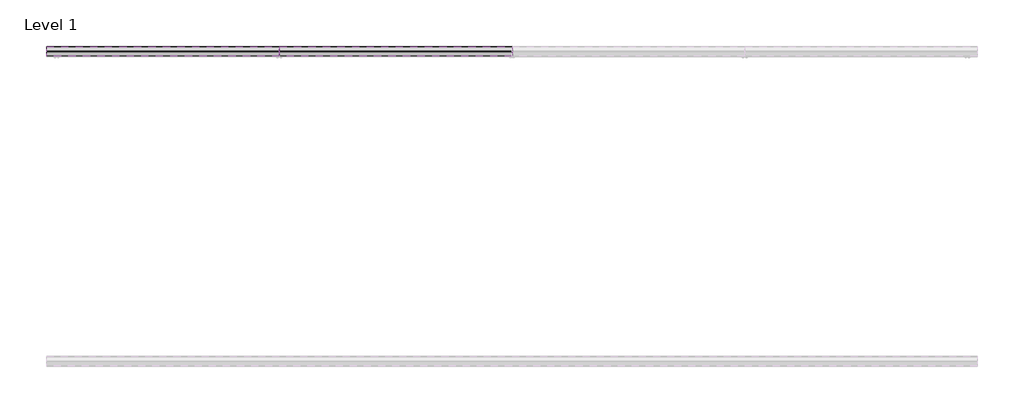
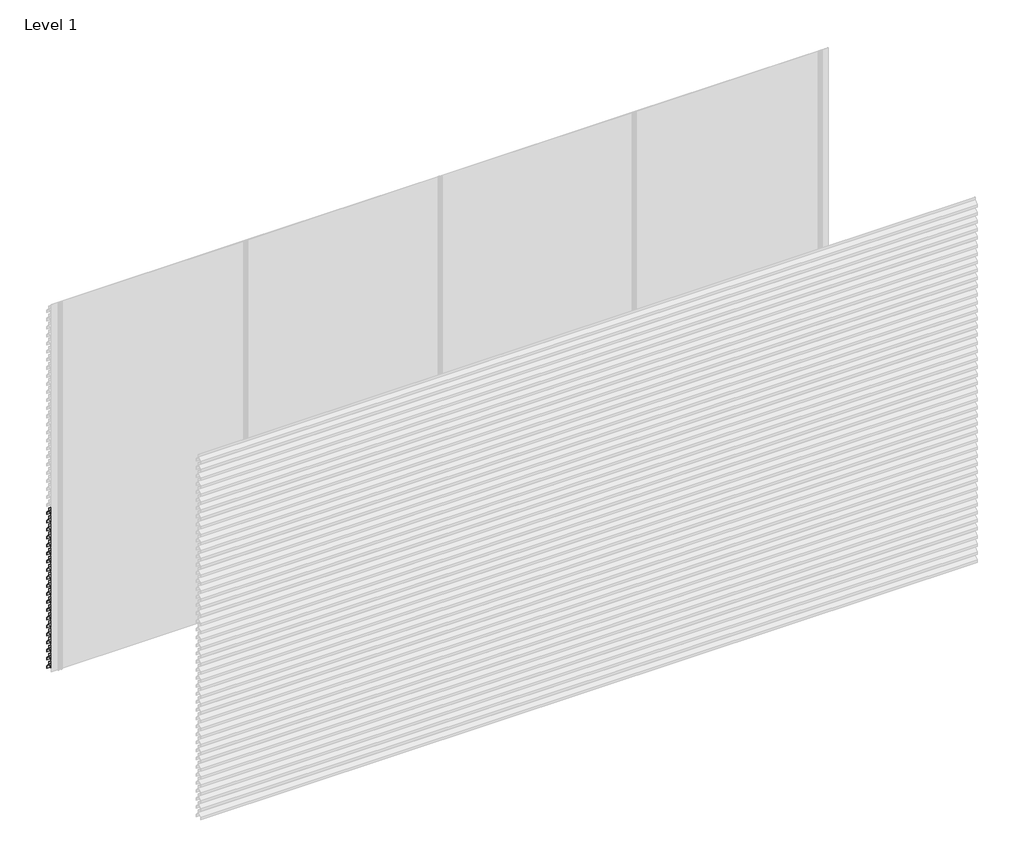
# One storey, part 33 of 35: 76 proxies.
"""IFC4 building model written with IfcOpenShell, lengths in millimetres."""

from ifc_helpers import new_model, si_unit, frame, origin, place, context, project, spatial, polyline, outline, extrude, element, save

model = new_model("IFC4")

# Units and contexts
model_context = context("Model", 3, world=origin())
ifc_project = project(units=[si_unit("LENGTHUNIT", "METRE", prefix="MILLI")], contexts=[model_context])

# Site, building, storey
site = spatial("IfcSite", under=ifc_project)
building = spatial("IfcBuilding", under=site)
storey = spatial("IfcBuildingStorey", under=building, Name="Level 1", Elevation=0.0)

# Proxies
placement = place(None, origin())
element("IfcBuildingElementProxy", 1, Name="Wall Sweeps", at=placement, inside=storey, context=model_context, shape_type="SweptSolid", body=[
    extrude(outline(polyline([(64.0, 1266.0), (64.0, 1246.0), (62.75, 1246.0), (62.75, 1265.4342979), (31.8861061, 1298.531772), (3.3, 1278.4392868), (3.3, 1259.6629874), (2.0, 1258.8506572), (2.0, 1279.1145472), (31.462475, 1299.823011), (31.462475, 1320.0), (32.8227376, 1320.0), (32.8227376, 1299.4335207), (64.0, 1266.0)])), frame((0.0, 0.0, 0.0), z_axis=(1.0, 0.0, 0.0), x_axis=(0.0, 1.0, 0.0)), (0.0, 0.0, 1.0), 1500.0),
])
element("IfcBuildingElementProxy", 2, Name="Wall Sweeps", at=placement, inside=storey, context=model_context, shape_type="SweptSolid", body=[
    extrude(outline(polyline([(64.0, 1200.0), (64.0, 1180.0), (62.75, 1180.0), (62.75, 1199.4342979), (31.8861061, 1232.531772), (3.3, 1212.4392868), (3.3, 1193.6629874), (2.0, 1192.8506572), (2.0, 1213.1145472), (31.462475, 1233.823011), (31.462475, 1254.0), (32.8227376, 1254.0), (32.8227376, 1233.4335207), (64.0, 1200.0)])), frame((0.0, 0.0, 0.0), z_axis=(1.0, 0.0, 0.0), x_axis=(0.0, 1.0, 0.0)), (0.0, 0.0, 1.0), 1500.0),
])
element("IfcBuildingElementProxy", 3, Name="Wall Sweeps", at=placement, inside=storey, context=model_context, shape_type="SweptSolid", body=[
    extrude(outline(polyline([(64.0, 1134.0), (64.0, 1114.0), (62.75, 1114.0), (62.75, 1133.4342979), (31.8861061, 1166.531772), (3.3, 1146.4392868), (3.3, 1127.6629874), (2.0, 1126.8506572), (2.0, 1147.1145472), (31.462475, 1167.823011), (31.462475, 1188.0), (32.8227376, 1188.0), (32.8227376, 1167.4335207), (64.0, 1134.0)])), frame((0.0, 0.0, 0.0), z_axis=(1.0, 0.0, 0.0), x_axis=(0.0, 1.0, 0.0)), (0.0, 0.0, 1.0), 1500.0),
])
element("IfcBuildingElementProxy", 4, Name="Wall Sweeps", at=placement, inside=storey, context=model_context, shape_type="SweptSolid", body=[
    extrude(outline(polyline([(64.0, 1068.0), (64.0, 1048.0), (62.75, 1048.0), (62.75, 1067.4342979), (31.8861061, 1100.531772), (3.3, 1080.4392868), (3.3, 1061.6629874), (2.0, 1060.8506572), (2.0, 1081.1145472), (31.462475, 1101.823011), (31.462475, 1122.0), (32.8227376, 1122.0), (32.8227376, 1101.4335207), (64.0, 1068.0)])), frame((0.0, 0.0, 0.0), z_axis=(1.0, 0.0, 0.0), x_axis=(0.0, 1.0, 0.0)), (0.0, 0.0, 1.0), 1500.0),
])
element("IfcBuildingElementProxy", 5, Name="Wall Sweeps", at=placement, inside=storey, context=model_context, shape_type="SweptSolid", body=[
    extrude(outline(polyline([(64.0, 1002.0), (64.0, 982.0), (62.75, 982.0), (62.75, 1001.4342979), (31.8861061, 1034.531772), (3.3, 1014.4392868), (3.3, 995.6629874), (2.0, 994.8506572), (2.0, 1015.1145472), (31.462475, 1035.823011), (31.462475, 1056.0), (32.8227376, 1056.0), (32.8227376, 1035.4335207), (64.0, 1002.0)])), frame((0.0, 0.0, 0.0), z_axis=(1.0, 0.0, 0.0), x_axis=(0.0, 1.0, 0.0)), (0.0, 0.0, 1.0), 1500.0),
])
element("IfcBuildingElementProxy", 6, Name="Wall Sweeps", at=placement, inside=storey, context=model_context, shape_type="SweptSolid", body=[
    extrude(outline(polyline([(64.0, 936.0), (64.0, 916.0), (62.75, 916.0), (62.75, 935.4342979), (31.8861061, 968.531772), (3.3, 948.4392868), (3.3, 929.6629874), (2.0, 928.8506572), (2.0, 949.1145472), (31.462475, 969.823011), (31.462475, 990.0), (32.8227376, 990.0), (32.8227376, 969.4335207), (64.0, 936.0)])), frame((0.0, 0.0, 0.0), z_axis=(1.0, 0.0, 0.0), x_axis=(0.0, 1.0, 0.0)), (0.0, 0.0, 1.0), 1500.0),
])
element("IfcBuildingElementProxy", 7, Name="Wall Sweeps", at=placement, inside=storey, context=model_context, shape_type="SweptSolid", body=[
    extrude(outline(polyline([(64.0, 870.0), (64.0, 850.0), (62.75, 850.0), (62.75, 869.4342979), (31.8861061, 902.531772), (3.3, 882.4392868), (3.3, 863.6629874), (2.0, 862.8506572), (2.0, 883.1145472), (31.462475, 903.823011), (31.462475, 924.0), (32.8227376, 924.0), (32.8227376, 903.4335207), (64.0, 870.0)])), frame((0.0, 0.0, 0.0), z_axis=(1.0, 0.0, 0.0), x_axis=(0.0, 1.0, 0.0)), (0.0, 0.0, 1.0), 1500.0),
])
element("IfcBuildingElementProxy", 8, Name="Wall Sweeps", at=placement, inside=storey, context=model_context, shape_type="SweptSolid", body=[
    extrude(outline(polyline([(64.0, 804.0), (64.0, 784.0), (62.75, 784.0), (62.75, 803.4342979), (31.8861061, 836.531772), (3.3, 816.4392868), (3.3, 797.6629874), (2.0, 796.8506572), (2.0, 817.1145472), (31.462475, 837.823011), (31.462475, 858.0), (32.8227376, 858.0), (32.8227376, 837.4335207), (64.0, 804.0)])), frame((0.0, 0.0, 0.0), z_axis=(1.0, 0.0, 0.0), x_axis=(0.0, 1.0, 0.0)), (0.0, 0.0, 1.0), 1500.0),
])
element("IfcBuildingElementProxy", 9, Name="Wall Sweeps", at=placement, inside=storey, context=model_context, shape_type="SweptSolid", body=[
    extrude(outline(polyline([(64.0, 738.0), (64.0, 718.0), (62.75, 718.0), (62.75, 737.4342979), (31.8861061, 770.531772), (3.3, 750.4392868), (3.3, 731.6629874), (2.0, 730.8506572), (2.0, 751.1145472), (31.462475, 771.823011), (31.462475, 792.0), (32.8227376, 792.0), (32.8227376, 771.4335207), (64.0, 738.0)])), frame((0.0, 0.0, 0.0), z_axis=(1.0, 0.0, 0.0), x_axis=(0.0, 1.0, 0.0)), (0.0, 0.0, 1.0), 1500.0),
])
element("IfcBuildingElementProxy", 10, Name="Wall Sweeps", at=placement, inside=storey, context=model_context, shape_type="SweptSolid", body=[
    extrude(outline(polyline([(64.0, 672.0), (64.0, 652.0), (62.75, 652.0), (62.75, 671.4342979), (31.8861061, 704.531772), (3.3, 684.4392868), (3.3, 665.6629874), (2.0, 664.8506572), (2.0, 685.1145472), (31.462475, 705.823011), (31.462475, 726.0), (32.8227376, 726.0), (32.8227376, 705.4335207), (64.0, 672.0)])), frame((0.0, 0.0, 0.0), z_axis=(1.0, 0.0, 0.0), x_axis=(0.0, 1.0, 0.0)), (0.0, 0.0, 1.0), 1500.0),
])
element("IfcBuildingElementProxy", 11, Name="Wall Sweeps", at=placement, inside=storey, context=model_context, shape_type="SweptSolid", body=[
    extrude(outline(polyline([(64.0, 606.0), (64.0, 586.0), (62.75, 586.0), (62.75, 605.4342979), (31.8861061, 638.531772), (3.3, 618.4392868), (3.3, 599.6629874), (2.0, 598.8506572), (2.0, 619.1145472), (31.462475, 639.823011), (31.462475, 660.0), (32.8227376, 660.0), (32.8227376, 639.4335207), (64.0, 606.0)])), frame((0.0, 0.0, 0.0), z_axis=(1.0, 0.0, 0.0), x_axis=(0.0, 1.0, 0.0)), (0.0, 0.0, 1.0), 1500.0),
])
element("IfcBuildingElementProxy", 12, Name="Wall Sweeps", at=placement, inside=storey, context=model_context, shape_type="SweptSolid", body=[
    extrude(outline(polyline([(64.0, 540.0), (64.0, 520.0), (62.75, 520.0), (62.75, 539.4342979), (31.8861061, 572.531772), (3.3, 552.4392868), (3.3, 533.6629874), (2.0, 532.8506572), (2.0, 553.1145472), (31.462475, 573.823011), (31.462475, 594.0), (32.8227376, 594.0), (32.8227376, 573.4335207), (64.0, 540.0)])), frame((0.0, 0.0, 0.0), z_axis=(1.0, 0.0, 0.0), x_axis=(0.0, 1.0, 0.0)), (0.0, 0.0, 1.0), 1500.0),
])
element("IfcBuildingElementProxy", 13, Name="Wall Sweeps", at=placement, inside=storey, context=model_context, shape_type="SweptSolid", body=[
    extrude(outline(polyline([(64.0, 474.0), (64.0, 454.0), (62.75, 454.0), (62.75, 473.4342979), (31.8861061, 506.531772), (3.3, 486.4392868), (3.3, 467.6629874), (2.0, 466.8506572), (2.0, 487.1145472), (31.462475, 507.823011), (31.462475, 528.0), (32.8227376, 528.0), (32.8227376, 507.4335207), (64.0, 474.0)])), frame((0.0, 0.0, 0.0), z_axis=(1.0, 0.0, 0.0), x_axis=(0.0, 1.0, 0.0)), (0.0, 0.0, 1.0), 1500.0),
])
element("IfcBuildingElementProxy", 14, Name="Wall Sweeps", at=placement, inside=storey, context=model_context, shape_type="SweptSolid", body=[
    extrude(outline(polyline([(64.0, 408.0), (64.0, 388.0), (62.75, 388.0), (62.75, 407.4342979), (31.8861061, 440.531772), (3.3, 420.4392868), (3.3, 401.6629874), (2.0, 400.8506572), (2.0, 421.1145472), (31.462475, 441.823011), (31.462475, 462.0), (32.8227376, 462.0), (32.8227376, 441.4335207), (64.0, 408.0)])), frame((0.0, 0.0, 0.0), z_axis=(1.0, 0.0, 0.0), x_axis=(0.0, 1.0, 0.0)), (0.0, 0.0, 1.0), 1500.0),
])
element("IfcBuildingElementProxy", 15, Name="Wall Sweeps", at=placement, inside=storey, context=model_context, shape_type="SweptSolid", body=[
    extrude(outline(polyline([(64.0, 342.0), (64.0, 322.0), (62.75, 322.0), (62.75, 341.4342979), (31.8861061, 374.531772), (3.3, 354.4392868), (3.3, 335.6629874), (2.0, 334.8506572), (2.0, 355.1145472), (31.462475, 375.823011), (31.462475, 396.0), (32.8227376, 396.0), (32.8227376, 375.4335207), (64.0, 342.0)])), frame((0.0, 0.0, 0.0), z_axis=(1.0, 0.0, 0.0), x_axis=(0.0, 1.0, 0.0)), (0.0, 0.0, 1.0), 1500.0),
])
element("IfcBuildingElementProxy", 16, Name="Wall Sweeps", at=placement, inside=storey, context=model_context, shape_type="SweptSolid", body=[
    extrude(outline(polyline([(64.0, 276.0), (64.0, 256.0), (62.75, 256.0), (62.75, 275.4342979), (31.8861061, 308.531772), (3.3, 288.4392868), (3.3, 269.6629874), (2.0, 268.8506572), (2.0, 289.1145472), (31.462475, 309.823011), (31.462475, 330.0), (32.8227376, 330.0), (32.8227376, 309.4335207), (64.0, 276.0)])), frame((0.0, 0.0, 0.0), z_axis=(1.0, 0.0, 0.0), x_axis=(0.0, 1.0, 0.0)), (0.0, 0.0, 1.0), 1500.0),
])
element("IfcBuildingElementProxy", 17, Name="Wall Sweeps", at=placement, inside=storey, context=model_context, shape_type="SweptSolid", body=[
    extrude(outline(polyline([(64.0, 210.0), (64.0, 190.0), (62.75, 190.0), (62.75, 209.4342979), (31.8861061, 242.531772), (3.3, 222.4392868), (3.3, 203.6629874), (2.0, 202.8506572), (2.0, 223.1145472), (31.462475, 243.823011), (31.462475, 264.0), (32.8227376, 264.0), (32.8227376, 243.4335207), (64.0, 210.0)])), frame((0.0, 0.0, 0.0), z_axis=(1.0, 0.0, 0.0), x_axis=(0.0, 1.0, 0.0)), (0.0, 0.0, 1.0), 1500.0),
])
element("IfcBuildingElementProxy", 18, Name="Wall Sweeps", at=placement, inside=storey, context=model_context, shape_type="SweptSolid", body=[
    extrude(outline(polyline([(64.0, 144.0), (64.0, 124.0), (62.75, 124.0), (62.75, 143.4342979), (31.8861061, 176.531772), (3.3, 156.4392868), (3.3, 137.6629874), (2.0, 136.8506572), (2.0, 157.1145472), (31.462475, 177.823011), (31.462475, 198.0), (32.8227376, 198.0), (32.8227376, 177.4335207), (64.0, 144.0)])), frame((0.0, 0.0, 0.0), z_axis=(1.0, 0.0, 0.0), x_axis=(0.0, 1.0, 0.0)), (0.0, 0.0, 1.0), 1500.0),
])
element("IfcBuildingElementProxy", 19, Name="Wall Sweeps", at=placement, inside=storey, context=model_context, shape_type="SweptSolid", body=[
    extrude(outline(polyline([(64.0, 78.0), (64.0, 58.0), (62.75, 58.0), (62.75, 77.4342979), (31.8861061, 110.531772), (3.3, 90.4392868), (3.3, 71.6629874), (2.0, 70.8506572), (2.0, 91.1145472), (31.462475, 111.823011), (31.462475, 132.0), (32.8227376, 132.0), (32.8227376, 111.4335207), (64.0, 78.0)])), frame((0.0, 0.0, 0.0), z_axis=(1.0, 0.0, 0.0), x_axis=(0.0, 1.0, 0.0)), (0.0, 0.0, 1.0), 1500.0),
])
element("IfcBuildingElementProxy", 20, Name="Wall Sweeps", at=placement, inside=storey, context=model_context, shape_type="SweptSolid", body=[
    extrude(outline(polyline([(64.0, 12.0), (64.0, -8.0), (62.75, -8.0), (62.75, 11.4342979), (31.8861061, 44.531772), (3.3, 24.4392868), (3.3, 5.6629874), (2.0, 4.8506572), (2.0, 25.1145472), (31.462475, 45.823011), (31.462475, 66.0), (32.8227376, 66.0), (32.8227376, 45.4335207), (64.0, 12.0)])), frame((0.0, 0.0, 0.0), z_axis=(1.0, 0.0, 0.0), x_axis=(0.0, 1.0, 0.0)), (0.0, 0.0, 1.0), 1500.0),
])
element("IfcBuildingElementProxy", 21, Name="Wall Sweeps", at=placement, inside=storey, context=model_context, shape_type="SweptSolid", body=[
    extrude(outline(polyline([(64.0, 2916.0), (64.0, 2896.0), (62.75, 2896.0), (62.75, 2915.4342979), (31.8861061, 2948.531772), (3.3, 2928.4392868), (3.3, 2909.6629874), (2.0, 2908.8506572), (2.0, 2929.1145472), (31.462475, 2949.823011), (31.462475, 2970.0), (32.8227376, 2970.0), (32.8227376, 2949.4335207), (64.0, 2916.0)])), frame((1500.0, 0.0, 0.0), z_axis=(1.0, 0.0, 0.0), x_axis=(0.0, 1.0, 0.0)), (0.0, 0.0, 1.0), 1500.0),
])
element("IfcBuildingElementProxy", 22, Name="Wall Sweeps", at=placement, inside=storey, context=model_context, shape_type="SweptSolid", body=[
    extrude(outline(polyline([(64.0, 2850.0), (64.0, 2830.0), (62.75, 2830.0), (62.75, 2849.4342979), (31.8861061, 2882.531772), (3.3, 2862.4392868), (3.3, 2843.6629874), (2.0, 2842.8506572), (2.0, 2863.1145472), (31.462475, 2883.823011), (31.462475, 2904.0), (32.8227376, 2904.0), (32.8227376, 2883.4335207), (64.0, 2850.0)])), frame((1500.0, 0.0, 0.0), z_axis=(1.0, 0.0, 0.0), x_axis=(0.0, 1.0, 0.0)), (0.0, 0.0, 1.0), 1500.0),
])
element("IfcBuildingElementProxy", 23, Name="Wall Sweeps", at=placement, inside=storey, context=model_context, shape_type="SweptSolid", body=[
    extrude(outline(polyline([(64.0, 2784.0), (64.0, 2764.0), (62.75, 2764.0), (62.75, 2783.4342979), (31.8861061, 2816.531772), (3.3, 2796.4392868), (3.3, 2777.6629874), (2.0, 2776.8506572), (2.0, 2797.1145472), (31.462475, 2817.823011), (31.462475, 2838.0), (32.8227376, 2838.0), (32.8227376, 2817.4335207), (64.0, 2784.0)])), frame((1500.0, 0.0, 0.0), z_axis=(1.0, 0.0, 0.0), x_axis=(0.0, 1.0, 0.0)), (0.0, 0.0, 1.0), 1500.0),
])
element("IfcBuildingElementProxy", 24, Name="Wall Sweeps", at=placement, inside=storey, context=model_context, shape_type="SweptSolid", body=[
    extrude(outline(polyline([(64.0, 2718.0), (64.0, 2698.0), (62.75, 2698.0), (62.75, 2717.4342979), (31.8861061, 2750.531772), (3.3, 2730.4392868), (3.3, 2711.6629874), (2.0, 2710.8506572), (2.0, 2731.1145472), (31.462475, 2751.823011), (31.462475, 2772.0), (32.8227376, 2772.0), (32.8227376, 2751.4335207), (64.0, 2718.0)])), frame((1500.0, 0.0, 0.0), z_axis=(1.0, 0.0, 0.0), x_axis=(0.0, 1.0, 0.0)), (0.0, 0.0, 1.0), 1500.0),
])
element("IfcBuildingElementProxy", 25, Name="Wall Sweeps", at=placement, inside=storey, context=model_context, shape_type="SweptSolid", body=[
    extrude(outline(polyline([(64.0, 2652.0), (64.0, 2632.0), (62.75, 2632.0), (62.75, 2651.4342979), (31.8861061, 2684.531772), (3.3, 2664.4392868), (3.3, 2645.6629874), (2.0, 2644.8506572), (2.0, 2665.1145472), (31.462475, 2685.823011), (31.462475, 2706.0), (32.8227376, 2706.0), (32.8227376, 2685.4335207), (64.0, 2652.0)])), frame((1500.0, 0.0, 0.0), z_axis=(1.0, 0.0, 0.0), x_axis=(0.0, 1.0, 0.0)), (0.0, 0.0, 1.0), 1500.0),
])
element("IfcBuildingElementProxy", 26, Name="Wall Sweeps", at=placement, inside=storey, context=model_context, shape_type="SweptSolid", body=[
    extrude(outline(polyline([(64.0, 2586.0), (64.0, 2566.0), (62.75, 2566.0), (62.75, 2585.4342979), (31.8861061, 2618.531772), (3.3, 2598.4392868), (3.3, 2579.6629874), (2.0, 2578.8506572), (2.0, 2599.1145472), (31.462475, 2619.823011), (31.462475, 2640.0), (32.8227376, 2640.0), (32.8227376, 2619.4335207), (64.0, 2586.0)])), frame((1500.0, 0.0, 0.0), z_axis=(1.0, 0.0, 0.0), x_axis=(0.0, 1.0, 0.0)), (0.0, 0.0, 1.0), 1500.0),
])
element("IfcBuildingElementProxy", 27, Name="Wall Sweeps", at=placement, inside=storey, context=model_context, shape_type="SweptSolid", body=[
    extrude(outline(polyline([(64.0, 2520.0), (64.0, 2500.0), (62.75, 2500.0), (62.75, 2519.4342979), (31.8861061, 2552.531772), (3.3, 2532.4392868), (3.3, 2513.6629874), (2.0, 2512.8506572), (2.0, 2533.1145472), (31.462475, 2553.823011), (31.462475, 2574.0), (32.8227376, 2574.0), (32.8227376, 2553.4335207), (64.0, 2520.0)])), frame((1500.0, 0.0, 0.0), z_axis=(1.0, 0.0, 0.0), x_axis=(0.0, 1.0, 0.0)), (0.0, 0.0, 1.0), 1500.0),
])
element("IfcBuildingElementProxy", 28, Name="Wall Sweeps", at=placement, inside=storey, context=model_context, shape_type="SweptSolid", body=[
    extrude(outline(polyline([(64.0, 2454.0), (64.0, 2434.0), (62.75, 2434.0), (62.75, 2453.4342979), (31.8861061, 2486.531772), (3.3, 2466.4392868), (3.3, 2447.6629874), (2.0, 2446.8506572), (2.0, 2467.1145472), (31.462475, 2487.823011), (31.462475, 2508.0), (32.8227376, 2508.0), (32.8227376, 2487.4335207), (64.0, 2454.0)])), frame((1500.0, 0.0, 0.0), z_axis=(1.0, 0.0, 0.0), x_axis=(0.0, 1.0, 0.0)), (0.0, 0.0, 1.0), 1500.0),
])
element("IfcBuildingElementProxy", 29, Name="Wall Sweeps", at=placement, inside=storey, context=model_context, shape_type="SweptSolid", body=[
    extrude(outline(polyline([(64.0, 2388.0), (64.0, 2368.0), (62.75, 2368.0), (62.75, 2387.4342979), (31.8861061, 2420.531772), (3.3, 2400.4392868), (3.3, 2381.6629874), (2.0, 2380.8506572), (2.0, 2401.1145472), (31.462475, 2421.823011), (31.462475, 2442.0), (32.8227376, 2442.0), (32.8227376, 2421.4335207), (64.0, 2388.0)])), frame((1500.0, 0.0, 0.0), z_axis=(1.0, 0.0, 0.0), x_axis=(0.0, 1.0, 0.0)), (0.0, 0.0, 1.0), 1500.0),
])
element("IfcBuildingElementProxy", 30, Name="Wall Sweeps", at=placement, inside=storey, context=model_context, shape_type="SweptSolid", body=[
    extrude(outline(polyline([(64.0, 2322.0), (64.0, 2302.0), (62.75, 2302.0), (62.75, 2321.4342979), (31.8861061, 2354.531772), (3.3, 2334.4392868), (3.3, 2315.6629874), (2.0, 2314.8506572), (2.0, 2335.1145472), (31.462475, 2355.823011), (31.462475, 2376.0), (32.8227376, 2376.0), (32.8227376, 2355.4335207), (64.0, 2322.0)])), frame((1500.0, 0.0, 0.0), z_axis=(1.0, 0.0, 0.0), x_axis=(0.0, 1.0, 0.0)), (0.0, 0.0, 1.0), 1500.0),
])
element("IfcBuildingElementProxy", 31, Name="Wall Sweeps", at=placement, inside=storey, context=model_context, shape_type="SweptSolid", body=[
    extrude(outline(polyline([(64.0, 2256.0), (64.0, 2236.0), (62.75, 2236.0), (62.75, 2255.4342979), (31.8861061, 2288.531772), (3.3, 2268.4392868), (3.3, 2249.6629874), (2.0, 2248.8506572), (2.0, 2269.1145472), (31.462475, 2289.823011), (31.462475, 2310.0), (32.8227376, 2310.0), (32.8227376, 2289.4335207), (64.0, 2256.0)])), frame((1500.0, 0.0, 0.0), z_axis=(1.0, 0.0, 0.0), x_axis=(0.0, 1.0, 0.0)), (0.0, 0.0, 1.0), 1500.0),
])
element("IfcBuildingElementProxy", 32, Name="Wall Sweeps", at=placement, inside=storey, context=model_context, shape_type="SweptSolid", body=[
    extrude(outline(polyline([(64.0, 2190.0), (64.0, 2170.0), (62.75, 2170.0), (62.75, 2189.4342979), (31.8861061, 2222.531772), (3.3, 2202.4392868), (3.3, 2183.6629874), (2.0, 2182.8506572), (2.0, 2203.1145472), (31.462475, 2223.823011), (31.462475, 2244.0), (32.8227376, 2244.0), (32.8227376, 2223.4335207), (64.0, 2190.0)])), frame((1500.0, 0.0, 0.0), z_axis=(1.0, 0.0, 0.0), x_axis=(0.0, 1.0, 0.0)), (0.0, 0.0, 1.0), 1500.0),
])
element("IfcBuildingElementProxy", 33, Name="Wall Sweeps", at=placement, inside=storey, context=model_context, shape_type="SweptSolid", body=[
    extrude(outline(polyline([(64.0, 2124.0), (64.0, 2104.0), (62.75, 2104.0), (62.75, 2123.4342979), (31.8861061, 2156.531772), (3.3, 2136.4392868), (3.3, 2117.6629874), (2.0, 2116.8506572), (2.0, 2137.1145472), (31.462475, 2157.823011), (31.462475, 2178.0), (32.8227376, 2178.0), (32.8227376, 2157.4335207), (64.0, 2124.0)])), frame((1500.0, 0.0, 0.0), z_axis=(1.0, 0.0, 0.0), x_axis=(0.0, 1.0, 0.0)), (0.0, 0.0, 1.0), 1500.0),
])
element("IfcBuildingElementProxy", 34, Name="Wall Sweeps", at=placement, inside=storey, context=model_context, shape_type="SweptSolid", body=[
    extrude(outline(polyline([(64.0, 2058.0), (64.0, 2038.0), (62.75, 2038.0), (62.75, 2057.4342979), (31.8861061, 2090.531772), (3.3, 2070.4392868), (3.3, 2051.6629874), (2.0, 2050.8506572), (2.0, 2071.1145472), (31.462475, 2091.823011), (31.462475, 2112.0), (32.8227376, 2112.0), (32.8227376, 2091.4335207), (64.0, 2058.0)])), frame((1500.0, 0.0, 0.0), z_axis=(1.0, 0.0, 0.0), x_axis=(0.0, 1.0, 0.0)), (0.0, 0.0, 1.0), 1500.0),
])
element("IfcBuildingElementProxy", 35, Name="Wall Sweeps", at=placement, inside=storey, context=model_context, shape_type="SweptSolid", body=[
    extrude(outline(polyline([(64.0, 1992.0), (64.0, 1972.0), (62.75, 1972.0), (62.75, 1991.4342979), (31.8861061, 2024.531772), (3.3, 2004.4392868), (3.3, 1985.6629874), (2.0, 1984.8506572), (2.0, 2005.1145472), (31.462475, 2025.823011), (31.462475, 2046.0), (32.8227376, 2046.0), (32.8227376, 2025.4335207), (64.0, 1992.0)])), frame((1500.0, 0.0, 0.0), z_axis=(1.0, 0.0, 0.0), x_axis=(0.0, 1.0, 0.0)), (0.0, 0.0, 1.0), 1500.0),
])
element("IfcBuildingElementProxy", 36, Name="Wall Sweeps", at=placement, inside=storey, context=model_context, shape_type="SweptSolid", body=[
    extrude(outline(polyline([(64.0, 1926.0), (64.0, 1906.0), (62.75, 1906.0), (62.75, 1925.4342979), (31.8861061, 1958.531772), (3.3, 1938.4392868), (3.3, 1919.6629874), (2.0, 1918.8506572), (2.0, 1939.1145472), (31.462475, 1959.823011), (31.462475, 1980.0), (32.8227376, 1980.0), (32.8227376, 1959.4335207), (64.0, 1926.0)])), frame((1500.0, 0.0, 0.0), z_axis=(1.0, 0.0, 0.0), x_axis=(0.0, 1.0, 0.0)), (0.0, 0.0, 1.0), 1500.0),
])
element("IfcBuildingElementProxy", 37, Name="Wall Sweeps", at=placement, inside=storey, context=model_context, shape_type="SweptSolid", body=[
    extrude(outline(polyline([(64.0, 1860.0), (64.0, 1840.0), (62.75, 1840.0), (62.75, 1859.4342979), (31.8861061, 1892.531772), (3.3, 1872.4392868), (3.3, 1853.6629874), (2.0, 1852.8506572), (2.0, 1873.1145472), (31.462475, 1893.823011), (31.462475, 1914.0), (32.8227376, 1914.0), (32.8227376, 1893.4335207), (64.0, 1860.0)])), frame((1500.0, 0.0, 0.0), z_axis=(1.0, 0.0, 0.0), x_axis=(0.0, 1.0, 0.0)), (0.0, 0.0, 1.0), 1500.0),
])
element("IfcBuildingElementProxy", 38, Name="Wall Sweeps", at=placement, inside=storey, context=model_context, shape_type="SweptSolid", body=[
    extrude(outline(polyline([(64.0, 1794.0), (64.0, 1774.0), (62.75, 1774.0), (62.75, 1793.4342979), (31.8861061, 1826.531772), (3.3, 1806.4392868), (3.3, 1787.6629874), (2.0, 1786.8506572), (2.0, 1807.1145472), (31.462475, 1827.823011), (31.462475, 1848.0), (32.8227376, 1848.0), (32.8227376, 1827.4335207), (64.0, 1794.0)])), frame((1500.0, 0.0, 0.0), z_axis=(1.0, 0.0, 0.0), x_axis=(0.0, 1.0, 0.0)), (0.0, 0.0, 1.0), 1500.0),
])
element("IfcBuildingElementProxy", 39, Name="Wall Sweeps", at=placement, inside=storey, context=model_context, shape_type="SweptSolid", body=[
    extrude(outline(polyline([(64.0, 1728.0), (64.0, 1708.0), (62.75, 1708.0), (62.75, 1727.4342979), (31.8861061, 1760.531772), (3.3, 1740.4392868), (3.3, 1721.6629874), (2.0, 1720.8506572), (2.0, 1741.1145472), (31.462475, 1761.823011), (31.462475, 1782.0), (32.8227376, 1782.0), (32.8227376, 1761.4335207), (64.0, 1728.0)])), frame((1500.0, 0.0, 0.0), z_axis=(1.0, 0.0, 0.0), x_axis=(0.0, 1.0, 0.0)), (0.0, 0.0, 1.0), 1500.0),
])
element("IfcBuildingElementProxy", 40, Name="Wall Sweeps", at=placement, inside=storey, context=model_context, shape_type="SweptSolid", body=[
    extrude(outline(polyline([(64.0, 1662.0), (64.0, 1642.0), (62.75, 1642.0), (62.75, 1661.4342979), (31.8861061, 1694.531772), (3.3, 1674.4392868), (3.3, 1655.6629874), (2.0, 1654.8506572), (2.0, 1675.1145472), (31.462475, 1695.823011), (31.462475, 1716.0), (32.8227376, 1716.0), (32.8227376, 1695.4335207), (64.0, 1662.0)])), frame((1500.0, 0.0, 0.0), z_axis=(1.0, 0.0, 0.0), x_axis=(0.0, 1.0, 0.0)), (0.0, 0.0, 1.0), 1500.0),
])
element("IfcBuildingElementProxy", 41, Name="Wall Sweeps", at=placement, inside=storey, context=model_context, shape_type="SweptSolid", body=[
    extrude(outline(polyline([(64.0, 1596.0), (64.0, 1576.0), (62.75, 1576.0), (62.75, 1595.4342979), (31.8861061, 1628.531772), (3.3, 1608.4392868), (3.3, 1589.6629874), (2.0, 1588.8506572), (2.0, 1609.1145472), (31.462475, 1629.823011), (31.462475, 1650.0), (32.8227376, 1650.0), (32.8227376, 1629.4335207), (64.0, 1596.0)])), frame((1500.0, 0.0, 0.0), z_axis=(1.0, 0.0, 0.0), x_axis=(0.0, 1.0, 0.0)), (0.0, 0.0, 1.0), 1500.0),
])
element("IfcBuildingElementProxy", 42, Name="Wall Sweeps", at=placement, inside=storey, context=model_context, shape_type="SweptSolid", body=[
    extrude(outline(polyline([(64.0, 1530.0), (64.0, 1510.0), (62.75, 1510.0), (62.75, 1529.4342979), (31.8861061, 1562.531772), (3.3, 1542.4392868), (3.3, 1523.6629874), (2.0, 1522.8506572), (2.0, 1543.1145472), (31.462475, 1563.823011), (31.462475, 1584.0), (32.8227376, 1584.0), (32.8227376, 1563.4335207), (64.0, 1530.0)])), frame((1500.0, 0.0, 0.0), z_axis=(1.0, 0.0, 0.0), x_axis=(0.0, 1.0, 0.0)), (0.0, 0.0, 1.0), 1500.0),
])
element("IfcBuildingElementProxy", 43, Name="Wall Sweeps", at=placement, inside=storey, context=model_context, shape_type="SweptSolid", body=[
    extrude(outline(polyline([(64.0, 1464.0), (64.0, 1444.0), (62.75, 1444.0), (62.75, 1463.4342979), (31.8861061, 1496.531772), (3.3, 1476.4392868), (3.3, 1457.6629874), (2.0, 1456.8506572), (2.0, 1477.1145472), (31.462475, 1497.823011), (31.462475, 1518.0), (32.8227376, 1518.0), (32.8227376, 1497.4335207), (64.0, 1464.0)])), frame((1500.0, 0.0, 0.0), z_axis=(1.0, 0.0, 0.0), x_axis=(0.0, 1.0, 0.0)), (0.0, 0.0, 1.0), 1500.0),
])
element("IfcBuildingElementProxy", 44, Name="Wall Sweeps", at=placement, inside=storey, context=model_context, shape_type="SweptSolid", body=[
    extrude(outline(polyline([(64.0, 1398.0), (64.0, 1378.0), (62.75, 1378.0), (62.75, 1397.4342979), (31.8861061, 1430.531772), (3.3, 1410.4392868), (3.3, 1391.6629874), (2.0, 1390.8506572), (2.0, 1411.1145472), (31.462475, 1431.823011), (31.462475, 1452.0), (32.8227376, 1452.0), (32.8227376, 1431.4335207), (64.0, 1398.0)])), frame((1500.0, 0.0, 0.0), z_axis=(1.0, 0.0, 0.0), x_axis=(0.0, 1.0, 0.0)), (0.0, 0.0, 1.0), 1500.0),
])
element("IfcBuildingElementProxy", 45, Name="Wall Sweeps", at=placement, inside=storey, context=model_context, shape_type="SweptSolid", body=[
    extrude(outline(polyline([(64.0, 1332.0), (64.0, 1312.0), (62.75, 1312.0), (62.75, 1331.4342979), (31.8861061, 1364.531772), (3.3, 1344.4392868), (3.3, 1325.6629874), (2.0, 1324.8506572), (2.0, 1345.1145472), (31.462475, 1365.823011), (31.462475, 1386.0), (32.8227376, 1386.0), (32.8227376, 1365.4335207), (64.0, 1332.0)])), frame((1500.0, 0.0, 0.0), z_axis=(1.0, 0.0, 0.0), x_axis=(0.0, 1.0, 0.0)), (0.0, 0.0, 1.0), 1500.0),
])
element("IfcBuildingElementProxy", 46, Name="Wall Sweeps", at=placement, inside=storey, context=model_context, shape_type="SweptSolid", body=[
    extrude(outline(polyline([(64.0, 1266.0), (64.0, 1246.0), (62.75, 1246.0), (62.75, 1265.4342979), (31.8861061, 1298.531772), (3.3, 1278.4392868), (3.3, 1259.6629874), (2.0, 1258.8506572), (2.0, 1279.1145472), (31.462475, 1299.823011), (31.462475, 1320.0), (32.8227376, 1320.0), (32.8227376, 1299.4335207), (64.0, 1266.0)])), frame((1500.0, 0.0, 0.0), z_axis=(1.0, 0.0, 0.0), x_axis=(0.0, 1.0, 0.0)), (0.0, 0.0, 1.0), 1500.0),
])
element("IfcBuildingElementProxy", 47, Name="Wall Sweeps", at=placement, inside=storey, context=model_context, shape_type="SweptSolid", body=[
    extrude(outline(polyline([(64.0, 1200.0), (64.0, 1180.0), (62.75, 1180.0), (62.75, 1199.4342979), (31.8861061, 1232.531772), (3.3, 1212.4392868), (3.3, 1193.6629874), (2.0, 1192.8506572), (2.0, 1213.1145472), (31.462475, 1233.823011), (31.462475, 1254.0), (32.8227376, 1254.0), (32.8227376, 1233.4335207), (64.0, 1200.0)])), frame((1500.0, 0.0, 0.0), z_axis=(1.0, 0.0, 0.0), x_axis=(0.0, 1.0, 0.0)), (0.0, 0.0, 1.0), 1500.0),
])
element("IfcBuildingElementProxy", 48, Name="Wall Sweeps", at=placement, inside=storey, context=model_context, shape_type="SweptSolid", body=[
    extrude(outline(polyline([(64.0, 1134.0), (64.0, 1114.0), (62.75, 1114.0), (62.75, 1133.4342979), (31.8861061, 1166.531772), (3.3, 1146.4392868), (3.3, 1127.6629874), (2.0, 1126.8506572), (2.0, 1147.1145472), (31.462475, 1167.823011), (31.462475, 1188.0), (32.8227376, 1188.0), (32.8227376, 1167.4335207), (64.0, 1134.0)])), frame((1500.0, 0.0, 0.0), z_axis=(1.0, 0.0, 0.0), x_axis=(0.0, 1.0, 0.0)), (0.0, 0.0, 1.0), 1500.0),
])
element("IfcBuildingElementProxy", 49, Name="Wall Sweeps", at=placement, inside=storey, context=model_context, shape_type="SweptSolid", body=[
    extrude(outline(polyline([(64.0, 1068.0), (64.0, 1048.0), (62.75, 1048.0), (62.75, 1067.4342979), (31.8861061, 1100.531772), (3.3, 1080.4392868), (3.3, 1061.6629874), (2.0, 1060.8506572), (2.0, 1081.1145472), (31.462475, 1101.823011), (31.462475, 1122.0), (32.8227376, 1122.0), (32.8227376, 1101.4335207), (64.0, 1068.0)])), frame((1500.0, 0.0, 0.0), z_axis=(1.0, 0.0, 0.0), x_axis=(0.0, 1.0, 0.0)), (0.0, 0.0, 1.0), 1500.0),
])
element("IfcBuildingElementProxy", 50, Name="Wall Sweeps", at=placement, inside=storey, context=model_context, shape_type="SweptSolid", body=[
    extrude(outline(polyline([(64.0, 1002.0), (64.0, 982.0), (62.75, 982.0), (62.75, 1001.4342979), (31.8861061, 1034.531772), (3.3, 1014.4392868), (3.3, 995.6629874), (2.0, 994.8506572), (2.0, 1015.1145472), (31.462475, 1035.823011), (31.462475, 1056.0), (32.8227376, 1056.0), (32.8227376, 1035.4335207), (64.0, 1002.0)])), frame((1500.0, 0.0, 0.0), z_axis=(1.0, 0.0, 0.0), x_axis=(0.0, 1.0, 0.0)), (0.0, 0.0, 1.0), 1500.0),
])
element("IfcBuildingElementProxy", 51, Name="Wall Sweeps", at=placement, inside=storey, context=model_context, shape_type="SweptSolid", body=[
    extrude(outline(polyline([(64.0, 936.0), (64.0, 916.0), (62.75, 916.0), (62.75, 935.4342979), (31.8861061, 968.531772), (3.3, 948.4392868), (3.3, 929.6629874), (2.0, 928.8506572), (2.0, 949.1145472), (31.462475, 969.823011), (31.462475, 990.0), (32.8227376, 990.0), (32.8227376, 969.4335207), (64.0, 936.0)])), frame((1500.0, 0.0, 0.0), z_axis=(1.0, 0.0, 0.0), x_axis=(0.0, 1.0, 0.0)), (0.0, 0.0, 1.0), 1500.0),
])
element("IfcBuildingElementProxy", 52, Name="Wall Sweeps", at=placement, inside=storey, context=model_context, shape_type="SweptSolid", body=[
    extrude(outline(polyline([(64.0, 870.0), (64.0, 850.0), (62.75, 850.0), (62.75, 869.4342979), (31.8861061, 902.531772), (3.3, 882.4392868), (3.3, 863.6629874), (2.0, 862.8506572), (2.0, 883.1145472), (31.462475, 903.823011), (31.462475, 924.0), (32.8227376, 924.0), (32.8227376, 903.4335207), (64.0, 870.0)])), frame((1500.0, 0.0, 0.0), z_axis=(1.0, 0.0, 0.0), x_axis=(0.0, 1.0, 0.0)), (0.0, 0.0, 1.0), 1500.0),
])
element("IfcBuildingElementProxy", 53, Name="Wall Sweeps", at=placement, inside=storey, context=model_context, shape_type="SweptSolid", body=[
    extrude(outline(polyline([(64.0, 804.0), (64.0, 784.0), (62.75, 784.0), (62.75, 803.4342979), (31.8861061, 836.531772), (3.3, 816.4392868), (3.3, 797.6629874), (2.0, 796.8506572), (2.0, 817.1145472), (31.462475, 837.823011), (31.462475, 858.0), (32.8227376, 858.0), (32.8227376, 837.4335207), (64.0, 804.0)])), frame((1500.0, 0.0, 0.0), z_axis=(1.0, 0.0, 0.0), x_axis=(0.0, 1.0, 0.0)), (0.0, 0.0, 1.0), 1500.0),
])
element("IfcBuildingElementProxy", 54, Name="Wall Sweeps", at=placement, inside=storey, context=model_context, shape_type="SweptSolid", body=[
    extrude(outline(polyline([(64.0, 738.0), (64.0, 718.0), (62.75, 718.0), (62.75, 737.4342979), (31.8861061, 770.531772), (3.3, 750.4392868), (3.3, 731.6629874), (2.0, 730.8506572), (2.0, 751.1145472), (31.462475, 771.823011), (31.462475, 792.0), (32.8227376, 792.0), (32.8227376, 771.4335207), (64.0, 738.0)])), frame((1500.0, 0.0, 0.0), z_axis=(1.0, 0.0, 0.0), x_axis=(0.0, 1.0, 0.0)), (0.0, 0.0, 1.0), 1500.0),
])
element("IfcBuildingElementProxy", 55, Name="Wall Sweeps", at=placement, inside=storey, context=model_context, shape_type="SweptSolid", body=[
    extrude(outline(polyline([(64.0, 672.0), (64.0, 652.0), (62.75, 652.0), (62.75, 671.4342979), (31.8861061, 704.531772), (3.3, 684.4392868), (3.3, 665.6629874), (2.0, 664.8506572), (2.0, 685.1145472), (31.462475, 705.823011), (31.462475, 726.0), (32.8227376, 726.0), (32.8227376, 705.4335207), (64.0, 672.0)])), frame((1500.0, 0.0, 0.0), z_axis=(1.0, 0.0, 0.0), x_axis=(0.0, 1.0, 0.0)), (0.0, 0.0, 1.0), 1500.0),
])
element("IfcBuildingElementProxy", 56, Name="Wall Sweeps", at=placement, inside=storey, context=model_context, shape_type="SweptSolid", body=[
    extrude(outline(polyline([(64.0, 606.0), (64.0, 586.0), (62.75, 586.0), (62.75, 605.4342979), (31.8861061, 638.531772), (3.3, 618.4392868), (3.3, 599.6629874), (2.0, 598.8506572), (2.0, 619.1145472), (31.462475, 639.823011), (31.462475, 660.0), (32.8227376, 660.0), (32.8227376, 639.4335207), (64.0, 606.0)])), frame((1500.0, 0.0, 0.0), z_axis=(1.0, 0.0, 0.0), x_axis=(0.0, 1.0, 0.0)), (0.0, 0.0, 1.0), 1500.0),
])
element("IfcBuildingElementProxy", 57, Name="Wall Sweeps", at=placement, inside=storey, context=model_context, shape_type="SweptSolid", body=[
    extrude(outline(polyline([(64.0, 540.0), (64.0, 520.0), (62.75, 520.0), (62.75, 539.4342979), (31.8861061, 572.531772), (3.3, 552.4392868), (3.3, 533.6629874), (2.0, 532.8506572), (2.0, 553.1145472), (31.462475, 573.823011), (31.462475, 594.0), (32.8227376, 594.0), (32.8227376, 573.4335207), (64.0, 540.0)])), frame((1500.0, 0.0, 0.0), z_axis=(1.0, 0.0, 0.0), x_axis=(0.0, 1.0, 0.0)), (0.0, 0.0, 1.0), 1500.0),
])
element("IfcBuildingElementProxy", 58, Name="Wall Sweeps", at=placement, inside=storey, context=model_context, shape_type="SweptSolid", body=[
    extrude(outline(polyline([(64.0, 474.0), (64.0, 454.0), (62.75, 454.0), (62.75, 473.4342979), (31.8861061, 506.531772), (3.3, 486.4392868), (3.3, 467.6629874), (2.0, 466.8506572), (2.0, 487.1145472), (31.462475, 507.823011), (31.462475, 528.0), (32.8227376, 528.0), (32.8227376, 507.4335207), (64.0, 474.0)])), frame((1500.0, 0.0, 0.0), z_axis=(1.0, 0.0, 0.0), x_axis=(0.0, 1.0, 0.0)), (0.0, 0.0, 1.0), 1500.0),
])
element("IfcBuildingElementProxy", 59, Name="Wall Sweeps", at=placement, inside=storey, context=model_context, shape_type="SweptSolid", body=[
    extrude(outline(polyline([(64.0, 408.0), (64.0, 388.0), (62.75, 388.0), (62.75, 407.4342979), (31.8861061, 440.531772), (3.3, 420.4392868), (3.3, 401.6629874), (2.0, 400.8506572), (2.0, 421.1145472), (31.462475, 441.823011), (31.462475, 462.0), (32.8227376, 462.0), (32.8227376, 441.4335207), (64.0, 408.0)])), frame((1500.0, 0.0, 0.0), z_axis=(1.0, 0.0, 0.0), x_axis=(0.0, 1.0, 0.0)), (0.0, 0.0, 1.0), 1500.0),
])
element("IfcBuildingElementProxy", 60, Name="Wall Sweeps", at=placement, inside=storey, context=model_context, shape_type="SweptSolid", body=[
    extrude(outline(polyline([(64.0, 342.0), (64.0, 322.0), (62.75, 322.0), (62.75, 341.4342979), (31.8861061, 374.531772), (3.3, 354.4392868), (3.3, 335.6629874), (2.0, 334.8506572), (2.0, 355.1145472), (31.462475, 375.823011), (31.462475, 396.0), (32.8227376, 396.0), (32.8227376, 375.4335207), (64.0, 342.0)])), frame((1500.0, 0.0, 0.0), z_axis=(1.0, 0.0, 0.0), x_axis=(0.0, 1.0, 0.0)), (0.0, 0.0, 1.0), 1500.0),
])
element("IfcBuildingElementProxy", 61, Name="Wall Sweeps", at=placement, inside=storey, context=model_context, shape_type="SweptSolid", body=[
    extrude(outline(polyline([(64.0, 276.0), (64.0, 256.0), (62.75, 256.0), (62.75, 275.4342979), (31.8861061, 308.531772), (3.3, 288.4392868), (3.3, 269.6629874), (2.0, 268.8506572), (2.0, 289.1145472), (31.462475, 309.823011), (31.462475, 330.0), (32.8227376, 330.0), (32.8227376, 309.4335207), (64.0, 276.0)])), frame((1500.0, 0.0, 0.0), z_axis=(1.0, 0.0, 0.0), x_axis=(0.0, 1.0, 0.0)), (0.0, 0.0, 1.0), 1500.0),
])
element("IfcBuildingElementProxy", 62, Name="Wall Sweeps", at=placement, inside=storey, context=model_context, shape_type="SweptSolid", body=[
    extrude(outline(polyline([(64.0, 210.0), (64.0, 190.0), (62.75, 190.0), (62.75, 209.4342979), (31.8861061, 242.531772), (3.3, 222.4392868), (3.3, 203.6629874), (2.0, 202.8506572), (2.0, 223.1145472), (31.462475, 243.823011), (31.462475, 264.0), (32.8227376, 264.0), (32.8227376, 243.4335207), (64.0, 210.0)])), frame((1500.0, 0.0, 0.0), z_axis=(1.0, 0.0, 0.0), x_axis=(0.0, 1.0, 0.0)), (0.0, 0.0, 1.0), 1500.0),
])
element("IfcBuildingElementProxy", 63, Name="Wall Sweeps", at=placement, inside=storey, context=model_context, shape_type="SweptSolid", body=[
    extrude(outline(polyline([(64.0, 144.0), (64.0, 124.0), (62.75, 124.0), (62.75, 143.4342979), (31.8861061, 176.531772), (3.3, 156.4392868), (3.3, 137.6629874), (2.0, 136.8506572), (2.0, 157.1145472), (31.462475, 177.823011), (31.462475, 198.0), (32.8227376, 198.0), (32.8227376, 177.4335207), (64.0, 144.0)])), frame((1500.0, 0.0, 0.0), z_axis=(1.0, 0.0, 0.0), x_axis=(0.0, 1.0, 0.0)), (0.0, 0.0, 1.0), 1500.0),
])
element("IfcBuildingElementProxy", 64, Name="Wall Sweeps", at=placement, inside=storey, context=model_context, shape_type="SweptSolid", body=[
    extrude(outline(polyline([(64.0, 78.0), (64.0, 58.0), (62.75, 58.0), (62.75, 77.4342979), (31.8861061, 110.531772), (3.3, 90.4392868), (3.3, 71.6629874), (2.0, 70.8506572), (2.0, 91.1145472), (31.462475, 111.823011), (31.462475, 132.0), (32.8227376, 132.0), (32.8227376, 111.4335207), (64.0, 78.0)])), frame((1500.0, 0.0, 0.0), z_axis=(1.0, 0.0, 0.0), x_axis=(0.0, 1.0, 0.0)), (0.0, 0.0, 1.0), 1500.0),
])
element("IfcBuildingElementProxy", 65, Name="Wall Sweeps", at=placement, inside=storey, context=model_context, shape_type="SweptSolid", body=[
    extrude(outline(polyline([(64.0, 12.0), (64.0, -8.0), (62.75, -8.0), (62.75, 11.4342979), (31.8861061, 44.531772), (3.3, 24.4392868), (3.3, 5.6629874), (2.0, 4.8506572), (2.0, 25.1145472), (31.462475, 45.823011), (31.462475, 66.0), (32.8227376, 66.0), (32.8227376, 45.4335207), (64.0, 12.0)])), frame((1500.0, 0.0, 0.0), z_axis=(1.0, 0.0, 0.0), x_axis=(0.0, 1.0, 0.0)), (0.0, 0.0, 1.0), 1500.0),
])
element("IfcBuildingElementProxy", 66, Name="Wall Sweeps", at=placement, inside=storey, context=model_context, shape_type="SweptSolid", body=[
    extrude(outline(polyline([(64.0, 2916.0), (64.0, 2896.0), (62.75, 2896.0), (62.75, 2915.4342979), (31.8861061, 2948.531772), (3.3, 2928.4392868), (3.3, 2909.6629874), (2.0, 2908.8506572), (2.0, 2929.1145472), (31.462475, 2949.823011), (31.462475, 2970.0), (32.8227376, 2970.0), (32.8227376, 2949.4335207), (64.0, 2916.0)])), frame((3000.0, 0.0, 0.0), z_axis=(1.0, 0.0, 0.0), x_axis=(0.0, 1.0, 0.0)), (0.0, 0.0, 1.0), 1500.0),
])
element("IfcBuildingElementProxy", 67, Name="Wall Sweeps", at=placement, inside=storey, context=model_context, shape_type="SweptSolid", body=[
    extrude(outline(polyline([(64.0, 2850.0), (64.0, 2830.0), (62.75, 2830.0), (62.75, 2849.4342979), (31.8861061, 2882.531772), (3.3, 2862.4392868), (3.3, 2843.6629874), (2.0, 2842.8506572), (2.0, 2863.1145472), (31.462475, 2883.823011), (31.462475, 2904.0), (32.8227376, 2904.0), (32.8227376, 2883.4335207), (64.0, 2850.0)])), frame((3000.0, 0.0, 0.0), z_axis=(1.0, 0.0, 0.0), x_axis=(0.0, 1.0, 0.0)), (0.0, 0.0, 1.0), 1500.0),
])
element("IfcBuildingElementProxy", 68, Name="Wall Sweeps", at=placement, inside=storey, context=model_context, shape_type="SweptSolid", body=[
    extrude(outline(polyline([(64.0, 2784.0), (64.0, 2764.0), (62.75, 2764.0), (62.75, 2783.4342979), (31.8861061, 2816.531772), (3.3, 2796.4392868), (3.3, 2777.6629874), (2.0, 2776.8506572), (2.0, 2797.1145472), (31.462475, 2817.823011), (31.462475, 2838.0), (32.8227376, 2838.0), (32.8227376, 2817.4335207), (64.0, 2784.0)])), frame((3000.0, 0.0, 0.0), z_axis=(1.0, 0.0, 0.0), x_axis=(0.0, 1.0, 0.0)), (0.0, 0.0, 1.0), 1500.0),
])
element("IfcBuildingElementProxy", 69, Name="Wall Sweeps", at=placement, inside=storey, context=model_context, shape_type="SweptSolid", body=[
    extrude(outline(polyline([(64.0, 2718.0), (64.0, 2698.0), (62.75, 2698.0), (62.75, 2717.4342979), (31.8861061, 2750.531772), (3.3, 2730.4392868), (3.3, 2711.6629874), (2.0, 2710.8506572), (2.0, 2731.1145472), (31.462475, 2751.823011), (31.462475, 2772.0), (32.8227376, 2772.0), (32.8227376, 2751.4335207), (64.0, 2718.0)])), frame((3000.0, 0.0, 0.0), z_axis=(1.0, 0.0, 0.0), x_axis=(0.0, 1.0, 0.0)), (0.0, 0.0, 1.0), 1500.0),
])
element("IfcBuildingElementProxy", 70, Name="Wall Sweeps", at=placement, inside=storey, context=model_context, shape_type="SweptSolid", body=[
    extrude(outline(polyline([(64.0, 2652.0), (64.0, 2632.0), (62.75, 2632.0), (62.75, 2651.4342979), (31.8861061, 2684.531772), (3.3, 2664.4392868), (3.3, 2645.6629874), (2.0, 2644.8506572), (2.0, 2665.1145472), (31.462475, 2685.823011), (31.462475, 2706.0), (32.8227376, 2706.0), (32.8227376, 2685.4335207), (64.0, 2652.0)])), frame((3000.0, 0.0, 0.0), z_axis=(1.0, 0.0, 0.0), x_axis=(0.0, 1.0, 0.0)), (0.0, 0.0, 1.0), 1500.0),
])
element("IfcBuildingElementProxy", 71, Name="Wall Sweeps", at=placement, inside=storey, context=model_context, shape_type="SweptSolid", body=[
    extrude(outline(polyline([(64.0, 2586.0), (64.0, 2566.0), (62.75, 2566.0), (62.75, 2585.4342979), (31.8861061, 2618.531772), (3.3, 2598.4392868), (3.3, 2579.6629874), (2.0, 2578.8506572), (2.0, 2599.1145472), (31.462475, 2619.823011), (31.462475, 2640.0), (32.8227376, 2640.0), (32.8227376, 2619.4335207), (64.0, 2586.0)])), frame((3000.0, 0.0, 0.0), z_axis=(1.0, 0.0, 0.0), x_axis=(0.0, 1.0, 0.0)), (0.0, 0.0, 1.0), 1500.0),
])
element("IfcBuildingElementProxy", 72, Name="Wall Sweeps", at=placement, inside=storey, context=model_context, shape_type="SweptSolid", body=[
    extrude(outline(polyline([(64.0, 2520.0), (64.0, 2500.0), (62.75, 2500.0), (62.75, 2519.4342979), (31.8861061, 2552.531772), (3.3, 2532.4392868), (3.3, 2513.6629874), (2.0, 2512.8506572), (2.0, 2533.1145472), (31.462475, 2553.823011), (31.462475, 2574.0), (32.8227376, 2574.0), (32.8227376, 2553.4335207), (64.0, 2520.0)])), frame((3000.0, 0.0, 0.0), z_axis=(1.0, 0.0, 0.0), x_axis=(0.0, 1.0, 0.0)), (0.0, 0.0, 1.0), 1500.0),
])
element("IfcBuildingElementProxy", 73, Name="Wall Sweeps", at=placement, inside=storey, context=model_context, shape_type="SweptSolid", body=[
    extrude(outline(polyline([(64.0, 2454.0), (64.0, 2434.0), (62.75, 2434.0), (62.75, 2453.4342979), (31.8861061, 2486.531772), (3.3, 2466.4392868), (3.3, 2447.6629874), (2.0, 2446.8506572), (2.0, 2467.1145472), (31.462475, 2487.823011), (31.462475, 2508.0), (32.8227376, 2508.0), (32.8227376, 2487.4335207), (64.0, 2454.0)])), frame((3000.0, 0.0, 0.0), z_axis=(1.0, 0.0, 0.0), x_axis=(0.0, 1.0, 0.0)), (0.0, 0.0, 1.0), 1500.0),
])
element("IfcBuildingElementProxy", 74, Name="Wall Sweeps", at=placement, inside=storey, context=model_context, shape_type="SweptSolid", body=[
    extrude(outline(polyline([(64.0, 2388.0), (64.0, 2368.0), (62.75, 2368.0), (62.75, 2387.4342979), (31.8861061, 2420.531772), (3.3, 2400.4392868), (3.3, 2381.6629874), (2.0, 2380.8506572), (2.0, 2401.1145472), (31.462475, 2421.823011), (31.462475, 2442.0), (32.8227376, 2442.0), (32.8227376, 2421.4335207), (64.0, 2388.0)])), frame((3000.0, 0.0, 0.0), z_axis=(1.0, 0.0, 0.0), x_axis=(0.0, 1.0, 0.0)), (0.0, 0.0, 1.0), 1500.0),
])
element("IfcBuildingElementProxy", 75, Name="Wall Sweeps", at=placement, inside=storey, context=model_context, shape_type="SweptSolid", body=[
    extrude(outline(polyline([(64.0, 2322.0), (64.0, 2302.0), (62.75, 2302.0), (62.75, 2321.4342979), (31.8861061, 2354.531772), (3.3, 2334.4392868), (3.3, 2315.6629874), (2.0, 2314.8506572), (2.0, 2335.1145472), (31.462475, 2355.823011), (31.462475, 2376.0), (32.8227376, 2376.0), (32.8227376, 2355.4335207), (64.0, 2322.0)])), frame((3000.0, 0.0, 0.0), z_axis=(1.0, 0.0, 0.0), x_axis=(0.0, 1.0, 0.0)), (0.0, 0.0, 1.0), 1500.0),
])
element("IfcBuildingElementProxy", 76, Name="Wall Sweeps", at=placement, inside=storey, context=model_context, shape_type="SweptSolid", body=[
    extrude(outline(polyline([(64.0, 2256.0), (64.0, 2236.0), (62.75, 2236.0), (62.75, 2255.4342979), (31.8861061, 2288.531772), (3.3, 2268.4392868), (3.3, 2249.6629874), (2.0, 2248.8506572), (2.0, 2269.1145472), (31.462475, 2289.823011), (31.462475, 2310.0), (32.8227376, 2310.0), (32.8227376, 2289.4335207), (64.0, 2256.0)])), frame((3000.0, 0.0, 0.0), z_axis=(1.0, 0.0, 0.0), x_axis=(0.0, 1.0, 0.0)), (0.0, 0.0, 1.0), 1500.0),
])

save(model, "model.ifc")
